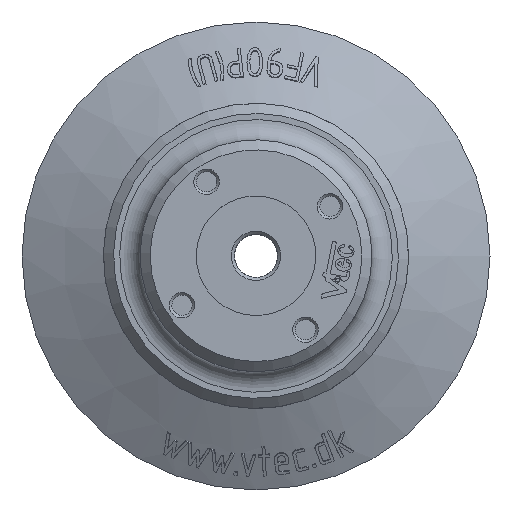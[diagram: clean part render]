
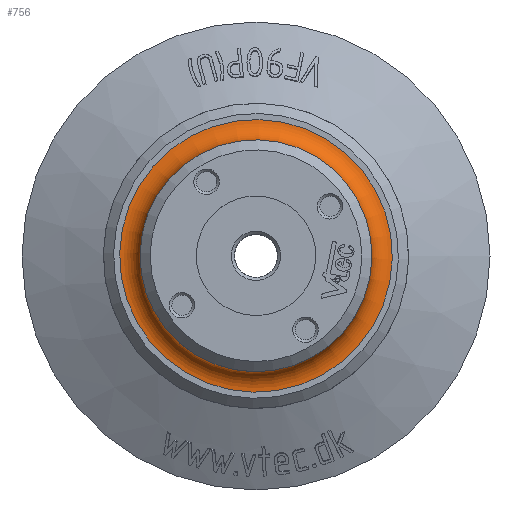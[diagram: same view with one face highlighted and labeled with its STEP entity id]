
A CAD part, top view. The second image highlights one B-rep face of the part: STEP entity #756.
In plain terms, the highlighted toroidal (fillet/blend) face has major radius 26.8 mm and minor radius 4 mm.
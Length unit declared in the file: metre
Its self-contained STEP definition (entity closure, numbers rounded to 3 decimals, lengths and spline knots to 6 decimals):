
#756 = ADVANCED_FACE( '', ( #2043, #2044 ), #2045, .F. );
#2043 = FACE_OUTER_BOUND( '', #9437, .T. );
#2044 = FACE_OUTER_BOUND( '', #9438, .T. );
#2045 = TOROIDAL_SURFACE( '', #9439, 0.0268, 0.004 );
#9437 = EDGE_LOOP( '', ( #13981 ) );
#9438 = EDGE_LOOP( '', ( #13982 ) );
#9439 = AXIS2_PLACEMENT_3D( '', #13983, #13984, #13985 );
#13981 = ORIENTED_EDGE( '', *, *, #15818, .F. );
#13982 = ORIENTED_EDGE( '', *, *, #15819, .T. );
#13983 = CARTESIAN_POINT( '', ( 0., 0., 0.00225 ) );
#13984 = DIRECTION( '', ( 0., 0., 1. ) );
#13985 = DIRECTION( '', ( 1., 0., 0. ) );
#15818 = EDGE_CURVE( '', #18535, #18535, #18536, .T. );
#15819 = EDGE_CURVE( '', #18537, #18537, #18538, .T. );
#18535 = VERTEX_POINT( '', #25109 );
#18536 = CIRCLE( '', #25110, 0.0228 );
#18537 = VERTEX_POINT( '', #25111 );
#18538 = CIRCLE( '', #25112, 0.0268 );
#25109 = CARTESIAN_POINT( '', ( 0.0228, 0., 0.00225 ) );
#25110 = AXIS2_PLACEMENT_3D( '', #27114, #27115, #27116 );
#25111 = CARTESIAN_POINT( '', ( 0.0268, 0., -0.00175 ) );
#25112 = AXIS2_PLACEMENT_3D( '', #27117, #27118, #27119 );
#27114 = CARTESIAN_POINT( '', ( 0., 0., 0.00225 ) );
#27115 = DIRECTION( '', ( 0., 0., 1. ) );
#27116 = DIRECTION( '', ( 1., 0., 0. ) );
#27117 = CARTESIAN_POINT( '', ( 0., 0., -0.00175 ) );
#27118 = DIRECTION( '', ( 0., 0., 1. ) );
#27119 = DIRECTION( '', ( 1., 0., 0. ) );
